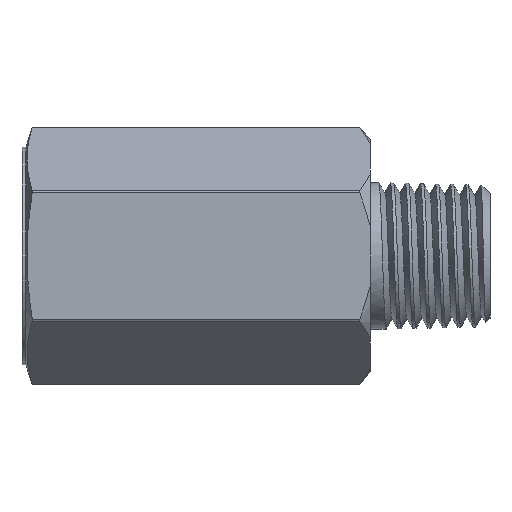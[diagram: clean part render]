
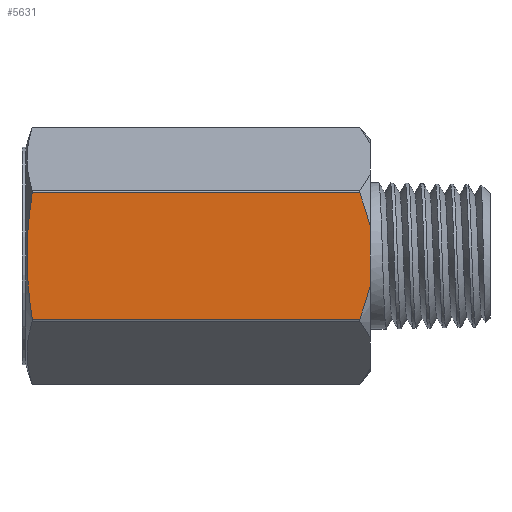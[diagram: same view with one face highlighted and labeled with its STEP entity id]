
A CAD part, front view. The second image highlights one B-rep face of the part: STEP entity #5631.
In plain terms, the highlighted planar face has unit normal (0, -1, 0).
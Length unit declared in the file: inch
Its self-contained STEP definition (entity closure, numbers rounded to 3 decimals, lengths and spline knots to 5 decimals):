
#7 = ORIENTED_EDGE ( 'NONE', *, *, #4585, .T. ) ;
#104 = CARTESIAN_POINT ( 'NONE',  ( 0.3017, -0.412, -0.23235 ) ) ;
#323 = DIRECTION ( 'NONE',  ( 0., 0., 1. ) ) ;
#353 = EDGE_CURVE ( 'NONE', #1727, #1107, #3465, .T. ) ;
#568 = CARTESIAN_POINT ( 'NONE',  ( 0.31704, -0.412, 0.19274 ) ) ;
#591 = EDGE_CURVE ( 'NONE', #1107, #3430, #5025, .T. ) ;
#608 = EDGE_LOOP ( 'NONE', ( #3058, #5671, #2744, #3433, #7, #1502 ) ) ;
#642 = EDGE_CURVE ( 'NONE', #1727, #2320, #2996, .T. ) ;
#683 = CARTESIAN_POINT ( 'NONE',  ( -0.94, -0.412, 0.23787 ) ) ;
#1047 = CARTESIAN_POINT ( 'NONE',  ( 0.3017, -0.412, 0.23235 ) ) ;
#1050 = CARTESIAN_POINT ( 'NONE',  ( -0.91318, -0.412, -0.15467 ) ) ;
#1107 = VERTEX_POINT ( 'NONE', #5960 ) ;
#1407 = CARTESIAN_POINT ( 'NONE',  ( 0.34, -0.412, 0.11116 ) ) ;
#1461 = CARTESIAN_POINT ( 'NONE',  ( -0.90223, -0.412, 0.23235 ) ) ;
#1502 = ORIENTED_EDGE ( 'NONE', *, *, #642, .F. ) ;
#1506 = CARTESIAN_POINT ( 'NONE',  ( -0.90823, -0.412, 0.19382 ) ) ;
#1712 = CARTESIAN_POINT ( 'NONE',  ( 0.34, -0.412, -0.11116 ) ) ;
#1727 = VERTEX_POINT ( 'NONE', #2423 ) ;
#1996 = CARTESIAN_POINT ( 'NONE',  ( -0.91979, -0.412, 0.07802 ) ) ;
#2174 = CARTESIAN_POINT ( 'NONE',  ( 0.3017, -0.412, 0.23235 ) ) ;
#2320 = VERTEX_POINT ( 'NONE', #1461 ) ;
#2412 = DIRECTION ( 'NONE',  ( -1., 0., 0. ) ) ;
#2423 = CARTESIAN_POINT ( 'NONE',  ( -0.90223, -0.412, -0.23235 ) ) ;
#2494 = CARTESIAN_POINT ( 'NONE',  ( 0.33556, -0.412, 0.13177 ) ) ;
#2500 = CARTESIAN_POINT ( 'NONE',  ( -0.92161, -0.412, -0.03814 ) ) ;
#2527 = CARTESIAN_POINT ( 'NONE',  ( 0.33555, -0.412, -0.13178 ) ) ;
#2528 = B_SPLINE_CURVE_WITH_KNOTS ( 'NONE', 3,
 ( #5905, #2494, #3481, #568, #3970, #1047 ),
 .UNSPECIFIED., .F., .F.,
 ( 4, 2, 4 ),
 ( 0.01736, 0.01896, 0.02057 ),
 .UNSPECIFIED. ) ;
#2560 = CARTESIAN_POINT ( 'NONE',  ( -1.66116, -0.412, -0.23235 ) ) ;
#2611 = VERTEX_POINT ( 'NONE', #2174 ) ;
#2643 = DIRECTION ( 'NONE',  ( 0., -1., 0. ) ) ;
#2744 = ORIENTED_EDGE ( 'NONE', *, *, #2790, .T. ) ;
#2790 = EDGE_CURVE ( 'NONE', #3430, #4529, #5265, .T. ) ;
#2996 = B_SPLINE_CURVE_WITH_KNOTS ( 'NONE', 3,
 ( #3001, #3486, #1050, #5913, #2500, #5417, #1996, #4929, #1506, #4432 ),
 .UNSPECIFIED., .F., .F.,
 ( 4, 2, 2, 2, 4 ),
 ( 0.01032, 0.0133, 0.01628, 0.01926, 0.02223 ),
 .UNSPECIFIED. ) ;
#3001 = CARTESIAN_POINT ( 'NONE',  ( -0.90223, -0.412, -0.23235 ) ) ;
#3023 = CARTESIAN_POINT ( 'NONE',  ( 0.31708, -0.412, -0.1926 ) ) ;
#3058 = ORIENTED_EDGE ( 'NONE', *, *, #353, .T. ) ;
#3239 = CARTESIAN_POINT ( 'NONE',  ( 0.34, -0.412, 0. ) ) ;
#3430 = VERTEX_POINT ( 'NONE', #1712 ) ;
#3433 = ORIENTED_EDGE ( 'NONE', *, *, #5485, .T. ) ;
#3465 = LINE ( 'NONE', #2560, #4756 ) ;
#3481 = CARTESIAN_POINT ( 'NONE',  ( 0.33, -0.412, 0.15219 ) ) ;
#3486 = CARTESIAN_POINT ( 'NONE',  ( -0.90826, -0.412, -0.19367 ) ) ;
#3512 = CARTESIAN_POINT ( 'NONE',  ( 0.3097, -0.412, -0.21267 ) ) ;
#3831 = VECTOR ( 'NONE', #323, 39.37008 ) ;
#3896 = CARTESIAN_POINT ( 'NONE',  ( -1.66116, -0.412, 0.23235 ) ) ;
#3970 = CARTESIAN_POINT ( 'NONE',  ( 0.30967, -0.412, 0.21274 ) ) ;
#3997 = AXIS2_PLACEMENT_3D ( 'NONE', #683, #2643, #6054 ) ;
#4344 = FACE_OUTER_BOUND ( 'NONE', #608, .T. ) ;
#4432 = CARTESIAN_POINT ( 'NONE',  ( -0.90223, -0.412, 0.23235 ) ) ;
#4510 = VECTOR ( 'NONE', #2412, 39.37008 ) ;
#4529 = VERTEX_POINT ( 'NONE', #1407 ) ;
#4585 = EDGE_CURVE ( 'NONE', #2611, #2320, #5812, .T. ) ;
#4756 = VECTOR ( 'NONE', #5377, 39.37008 ) ;
#4929 = CARTESIAN_POINT ( 'NONE',  ( -0.91311, -0.412, 0.15526 ) ) ;
#5025 = B_SPLINE_CURVE_WITH_KNOTS ( 'NONE', 3,
 ( #104, #3512, #3023, #5931, #2527, #5442 ),
 .UNSPECIFIED., .F., .F.,
 ( 4, 2, 4 ),
 ( 0.00846, 0.01007, 0.01168 ),
 .UNSPECIFIED. ) ;
#5265 = LINE ( 'NONE', #3239, #3831 ) ;
#5377 = DIRECTION ( 'NONE',  ( 1., 0., 0. ) ) ;
#5417 = CARTESIAN_POINT ( 'NONE',  ( -0.92157, -0.412, 0.03935 ) ) ;
#5442 = CARTESIAN_POINT ( 'NONE',  ( 0.34, -0.412, -0.11116 ) ) ;
#5485 = EDGE_CURVE ( 'NONE', #4529, #2611, #2528, .T. ) ;
#5559 = PLANE ( 'NONE',  #3997 ) ;
#5631 = ADVANCED_FACE ( 'NONE', ( #4344 ), #5559, .T. ) ;
#5671 = ORIENTED_EDGE ( 'NONE', *, *, #591, .T. ) ;
#5812 = LINE ( 'NONE', #3896, #4510 ) ;
#5905 = CARTESIAN_POINT ( 'NONE',  ( 0.34, -0.412, 0.11116 ) ) ;
#5913 = CARTESIAN_POINT ( 'NONE',  ( -0.91986, -0.412, -0.07694 ) ) ;
#5931 = CARTESIAN_POINT ( 'NONE',  ( 0.33, -0.412, -0.15218 ) ) ;
#5960 = CARTESIAN_POINT ( 'NONE',  ( 0.3017, -0.412, -0.23235 ) ) ;
#6054 = DIRECTION ( 'NONE',  ( 0., 0., -1. ) ) ;
